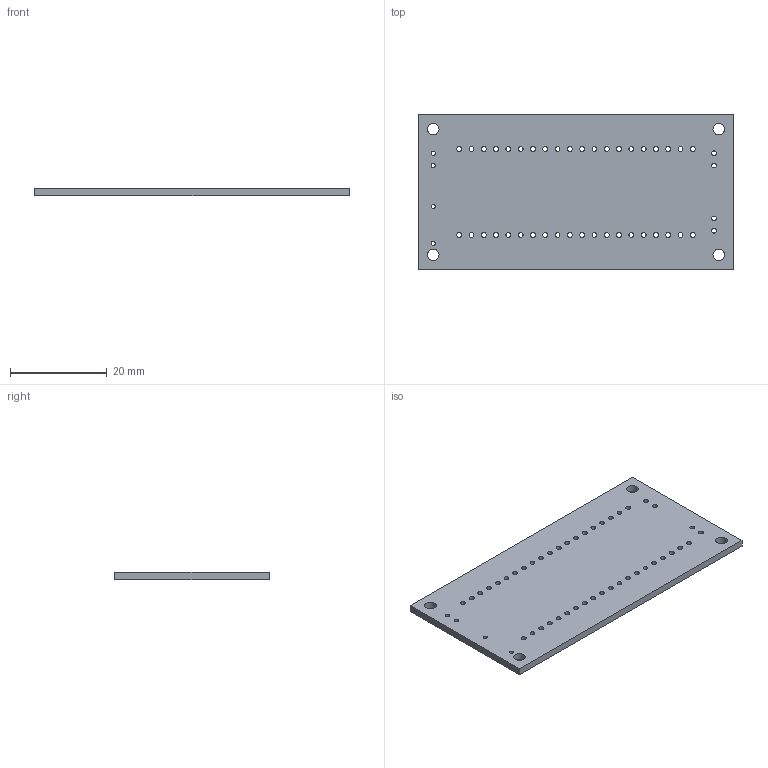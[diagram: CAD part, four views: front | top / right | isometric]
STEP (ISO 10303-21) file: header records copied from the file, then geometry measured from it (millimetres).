
FILE_DESCRIPTION(('KiCad electronic assembly'),'2;1');
FILE_NAME('focus_control_board.step','2026-10-29T21:18:25',('Pcbnew'),( 'Kicad'),'Open CASCADE STEP processor 7.9','KiCad to STEP converter' ,'Unknown');
FILE_SCHEMA(('AUTOMOTIVE_DESIGN { 1 0 10303 214 1 1 1 1 }'));
Length unit declared in the file: millimetre
Products named in the file (2): focus_control_board 1; focus_control_PCB
Assembly tree (1 placements, depth 2):
  focus_control_board 1
    focus_control_PCB
Bounding box: 65 x 32 x 1.51 mm (x, y, z)
Volume: 3057.9 mm3; surface area: 4613.5 mm2
Topology: 1 solids, 1 shells, 58 faces, 168 edges, 112 vertices
Faces by surface type: cylinder 52, plane 6
Full cylindrical faces by diameter (mm): 0.8 x2, 0.9 x2, 1 x44, 2.4 x4
Entity records: 2221 total; most frequent: DIRECTION 392, CARTESIAN_POINT 340, ORIENTED_EDGE 336, EDGE_CURVE 168, AXIS2_PLACEMENT_3D 164, FACE_BOUND 162, EDGE_LOOP 162, VERTEX_POINT 112
